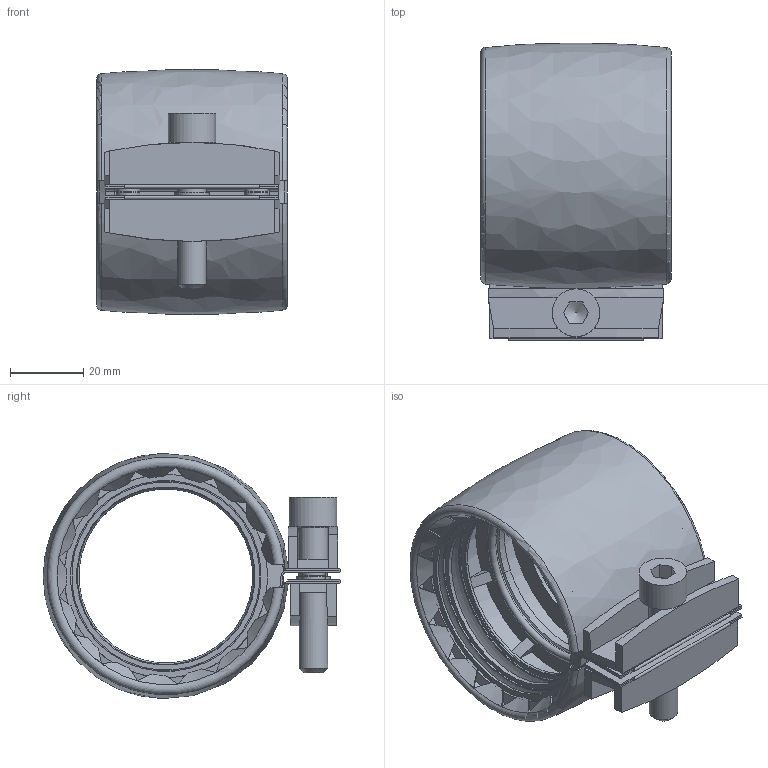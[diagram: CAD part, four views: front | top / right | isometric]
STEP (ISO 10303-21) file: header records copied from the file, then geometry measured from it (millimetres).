
FILE_DESCRIPTION(/* description */ (''),/* implementation_level */ '2;1');
FILE_NAME(/* name */ 'H:\Geberit-Teile\Export\Spannverbinder_neu\stp\305003.stp',/* time_stamp */ '2017-09-20T09:27:39+02:00',/* author */ ('seihe2'),/* organization */ (''),/* preprocessor_version */ 'ST-DEVELOPER v15.2',/* originating_system */ 'Autodesk Inventor 2014',/* authorisation */ '');
FILE_SCHEMA (('AUTOMOTIVE_DESIGN { 1 0 10303 214 3 1 1 }'));
Length unit declared in the file: millimetre
Products named in the file (1): 305003
Bounding box: 52 x 81.29 x 66.97 mm (x, y, z)
Volume: 48943.4 mm3; surface area: 67483.7 mm2
Topology: 5 solids, 5 shells, 359 faces, 979 edges, 649 vertices
Faces by surface type: plane 209, cylinder 64, cone 42, bspline 33, torus 11
Full cylindrical faces by diameter (mm): 6.5 x4, 7.805 x1, 8 x1, 10.5 x4, 13 x1, 48.695 x1, 48.743 x4, 51.448 x4, 58.7 x2, 60.799 x2, 64.3 x1
Entity records: 13283 total; most frequent: CARTESIAN_POINT 4886, ORIENTED_EDGE 1828, DIRECTION 1457, EDGE_CURVE 914, VERTEX_POINT 625, AXIS2_PLACEMENT_3D 559, EDGE_LOOP 431, STYLED_ITEM 364
